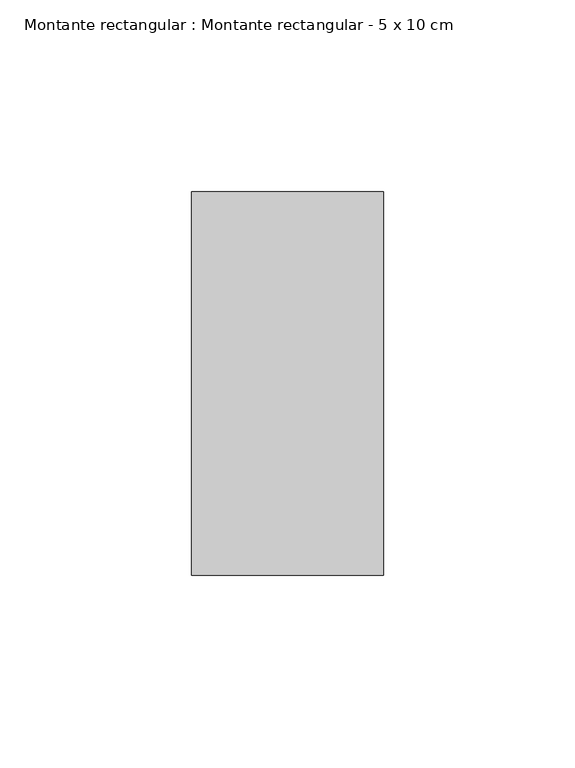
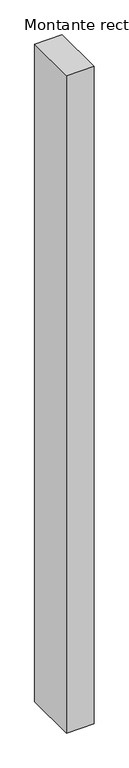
"""IFC4 building model written with IfcOpenShell, lengths in millimetres: member geometry, Montante rectangular : Montante rectangular - 5 x 10 cm."""

from ifc_helpers import new_model, si_unit, frame, origin, place, context, project, spatial, polyline, outline, extrude, source, transform, mapped, element, save


def montante_rectangular_montante_rectangular_5_x_10_cm_7bd22c31(model_context):
    return source(origin(), model_context, "Body", "SweptSolid", [
        extrude(outline(polyline([(0.0, 50.0), (0.0, -50.0), (-50.0, -50.0), (-50.0, 50.0), (0.0, 50.0)])), frame((0.0, 0.0, -1265.0), z_axis=(0.0, 0.0, 1.0), x_axis=(1.0, 0.0, 0.0)), (0.0, 0.0, 1.0), 1265.0),
    ])


if __name__ == "__main__":
    model = new_model("IFC4")
    model_context = context("Model", 3, world=origin())
    ifc_project = project(units=[si_unit("LENGTHUNIT", "METRE", prefix="MILLI")], contexts=[model_context])
    site = spatial("IfcSite", under=ifc_project)
    building = spatial("IfcBuilding", under=site)
    placement = place(None, origin())
    montante_rectangular_montante_rectangular_5_x_10_cm_shape = montante_rectangular_montante_rectangular_5_x_10_cm_7bd22c31(model_context)
    element("IfcMember", 1, ObjectType="Montante rectangular : Montante rectangular - 5 x 10 cm", at=placement, inside=building, context=model_context, shape_type="MappedRepresentation", body=[
        mapped(montante_rectangular_montante_rectangular_5_x_10_cm_shape, transform((0.0, 0.0, 0.0), x_axis=(1.0, 0.0, 0.0), y_axis=(0.0, 1.0, 0.0), z_axis=(0.0, 0.0, 1.0))),
    ])
    save(model, "model.ifc")
